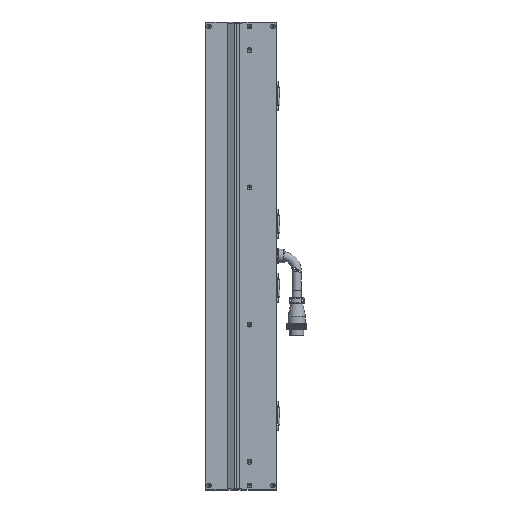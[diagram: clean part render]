
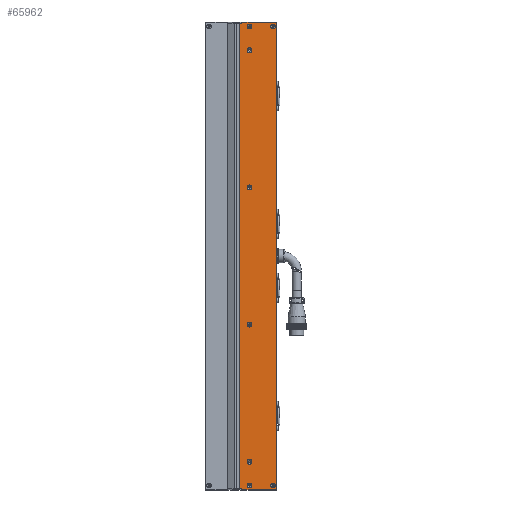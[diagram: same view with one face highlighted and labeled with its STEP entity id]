
A CAD part, left-side view. The second image highlights one B-rep face of the part: STEP entity #65962.
In plain terms, the highlighted planar face has unit normal (-1, 0, 0).
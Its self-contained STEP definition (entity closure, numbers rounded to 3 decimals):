
#83 = CARTESIAN_POINT ( 'NONE',  ( -24.998, -36.5, 304.15 ) ) ;
#1816 = VERTEX_POINT ( 'NONE', #86674 ) ;
#1954 = FACE_BOUND ( 'NONE', #25666, .T. ) ;
#2425 = CARTESIAN_POINT ( 'NONE',  ( -24.998, -72.5, 306.5 ) ) ;
#3952 = CARTESIAN_POINT ( 'NONE',  ( -24.998, -23.25, -305. ) ) ;
#6830 = EDGE_LOOP ( 'NONE', ( #38025 ) ) ;
#7368 = CARTESIAN_POINT ( 'NONE',  ( -24.998, -36.5, -266.85 ) ) ;
#7715 = VERTEX_POINT ( 'NONE', #72041 ) ;
#8238 = CARTESIAN_POINT ( 'NONE',  ( -24.998, -26.5, -298. ) ) ;
#9379 = VECTOR ( 'NONE', #88818, 1000. ) ;
#9977 = VERTEX_POINT ( 'NONE', #76135 ) ;
#10100 = CIRCLE ( 'NONE', #93527, 3.15 ) ;
#10749 = CARTESIAN_POINT ( 'NONE',  ( -24.998, -36.5, -270. ) ) ;
#10985 = CARTESIAN_POINT ( 'NONE',  ( -24.998, -72., -306.5 ) ) ;
#11258 = DIRECTION ( 'NONE',  ( 0., 0., 1. ) ) ;
#11318 = CIRCLE ( 'NONE', #65524, 3.15 ) ;
#11366 = LINE ( 'NONE', #3952, #67562 ) ;
#11568 = EDGE_CURVE ( 'NONE', #41946, #41946, #43046, .T. ) ;
#12170 = CARTESIAN_POINT ( 'NONE',  ( -24.998, -36.5, -90. ) ) ;
#13319 = VECTOR ( 'NONE', #79493, 1000. ) ;
#13717 = LINE ( 'NONE', #43394, #16206 ) ;
#14493 = DIRECTION ( 'NONE',  ( -1., 0., 0. ) ) ;
#16206 = VECTOR ( 'NONE', #42706, 1000. ) ;
#16662 = EDGE_CURVE ( 'NONE', #16963, #16963, #48878, .T. ) ;
#16963 = VERTEX_POINT ( 'NONE', #40646 ) ;
#17788 = EDGE_CURVE ( 'NONE', #92552, #83184, #13717, .T. ) ;
#18574 = ORIENTED_EDGE ( 'NONE', *, *, #73337, .F. ) ;
#19048 = ORIENTED_EDGE ( 'NONE', *, *, #17788, .F. ) ;
#19634 = CIRCLE ( 'NONE', #58338, 3.15 ) ;
#20808 = VERTEX_POINT ( 'NONE', #45881 ) ;
#21697 = LINE ( 'NONE', #62933, #59221 ) ;
#21809 = FACE_BOUND ( 'NONE', #85054, .T. ) ;
#22724 = EDGE_CURVE ( 'NONE', #20808, #97573, #54596, .T. ) ;
#23803 = CIRCLE ( 'NONE', #88369, 3.15 ) ;
#25212 = EDGE_CURVE ( 'NONE', #7715, #83184, #86866, .T. ) ;
#25666 = EDGE_LOOP ( 'NONE', ( #18574 ) ) ;
#26303 = EDGE_LOOP ( 'NONE', ( #97726 ) ) ;
#26374 = CARTESIAN_POINT ( 'NONE',  ( -24.998, -72., 306.5 ) ) ;
#27667 = EDGE_LOOP ( 'NONE', ( #73241 ) ) ;
#30609 = FACE_BOUND ( 'NONE', #87636, .T. ) ;
#30845 = CARTESIAN_POINT ( 'NONE',  ( -24.998, -67.5, -297.85 ) ) ;
#33041 = ORIENTED_EDGE ( 'NONE', *, *, #22724, .T. ) ;
#33846 = DIRECTION ( 'NONE',  ( 0., 0., 1. ) ) ;
#35016 = CARTESIAN_POINT ( 'NONE',  ( -24.998, -36.5, 93.15 ) ) ;
#35211 = DIRECTION ( 'NONE',  ( 0., 0., 1. ) ) ;
#37714 = VECTOR ( 'NONE', #67150, 1000. ) ;
#38025 = ORIENTED_EDGE ( 'NONE', *, *, #11568, .F. ) ;
#38549 = CARTESIAN_POINT ( 'NONE',  ( -24.998, -36.5, 301. ) ) ;
#40243 = AXIS2_PLACEMENT_3D ( 'NONE', #12170, #84151, #35211 ) ;
#40244 = DIRECTION ( 'NONE',  ( 0., -1., 0. ) ) ;
#40646 = CARTESIAN_POINT ( 'NONE',  ( -24.998, -36.5, -86.85 ) ) ;
#41946 = VERTEX_POINT ( 'NONE', #30845 ) ;
#42350 = ORIENTED_EDGE ( 'NONE', *, *, #99567, .F. ) ;
#42423 = CARTESIAN_POINT ( 'NONE',  ( -24.998, -23.25, 305. ) ) ;
#42706 = DIRECTION ( 'NONE',  ( 0., -1., 0. ) ) ;
#43046 = CIRCLE ( 'NONE', #70132, 3.15 ) ;
#43394 = CARTESIAN_POINT ( 'NONE',  ( -24.998, -72.5, 305. ) ) ;
#43626 = ORIENTED_EDGE ( 'NONE', *, *, #82678, .T. ) ;
#44501 = CARTESIAN_POINT ( 'NONE',  ( -24.998, -67.5, 301. ) ) ;
#44986 = EDGE_CURVE ( 'NONE', #9977, #92552, #11366, .T. ) ;
#45268 = DIRECTION ( 'NONE',  ( 0., 0., 1. ) ) ;
#45881 = CARTESIAN_POINT ( 'NONE',  ( -24.998, -26.5, -305. ) ) ;
#46223 = DIRECTION ( 'NONE',  ( 1., 0., 0. ) ) ;
#46450 = CARTESIAN_POINT ( 'NONE',  ( -24.998, -36.5, 273.15 ) ) ;
#47911 = EDGE_CURVE ( 'NONE', #76796, #76796, #19634, .T. ) ;
#48878 = CIRCLE ( 'NONE', #40243, 3.15 ) ;
#49396 = FACE_BOUND ( 'NONE', #26303, .T. ) ;
#50413 = CARTESIAN_POINT ( 'NONE',  ( -24.998, -72.5, -306.5 ) ) ;
#50894 = DIRECTION ( 'NONE',  ( 0., 0., 1. ) ) ;
#51523 = ORIENTED_EDGE ( 'NONE', *, *, #25212, .T. ) ;
#51885 = DIRECTION ( 'NONE',  ( -1., 0., 0. ) ) ;
#51897 = FACE_BOUND ( 'NONE', #94958, .T. ) ;
#52988 = DIRECTION ( 'NONE',  ( -1., 0., 0. ) ) ;
#53556 = ORIENTED_EDGE ( 'NONE', *, *, #16662, .F. ) ;
#54525 = CARTESIAN_POINT ( 'NONE',  ( -24.998, -36.5, -297.85 ) ) ;
#54596 = LINE ( 'NONE', #8238, #13319 ) ;
#55471 = VERTEX_POINT ( 'NONE', #46450 ) ;
#55747 = EDGE_CURVE ( 'NONE', #97573, #63568, #101520, .T. ) ;
#56641 = CARTESIAN_POINT ( 'NONE',  ( -24.998, -26.5, 298. ) ) ;
#58133 = CIRCLE ( 'NONE', #95392, 3.15 ) ;
#58338 = AXIS2_PLACEMENT_3D ( 'NONE', #60686, #52988, #45268 ) ;
#58728 = VECTOR ( 'NONE', #98805, 1000. ) ;
#59221 = VECTOR ( 'NONE', #78971, 1000. ) ;
#59432 = DIRECTION ( 'NONE',  ( -1., 0., 0. ) ) ;
#60493 = DIRECTION ( 'NONE',  ( 0., 0., 1. ) ) ;
#60686 = CARTESIAN_POINT ( 'NONE',  ( -24.998, -36.5, 90. ) ) ;
#60785 = DIRECTION ( 'NONE',  ( 0., 0., 1. ) ) ;
#61895 = EDGE_LOOP ( 'NONE', ( #43626, #33041, #96429, #95923, #94044, #51523, #19048, #66483 ) ) ;
#62457 = ORIENTED_EDGE ( 'NONE', *, *, #95091, .F. ) ;
#62673 = DIRECTION ( 'NONE',  ( 0., 0., -1. ) ) ;
#62933 = CARTESIAN_POINT ( 'NONE',  ( -24.998, -72., 305. ) ) ;
#63326 = CARTESIAN_POINT ( 'NONE',  ( -24.998, -26.5, 305. ) ) ;
#63568 = VERTEX_POINT ( 'NONE', #10985 ) ;
#65293 = DIRECTION ( 'NONE',  ( -1., 0., 0. ) ) ;
#65401 = VERTEX_POINT ( 'NONE', #83 ) ;
#65524 = AXIS2_PLACEMENT_3D ( 'NONE', #98584, #59432, #11258 ) ;
#65962 = ADVANCED_FACE ( 'NONE', ( #1954, #21809, #94400, #51897, #30609, #91917, #70653, #49396, #89431 ), #70029, .F. ) ;
#66483 = ORIENTED_EDGE ( 'NONE', *, *, #44986, .F. ) ;
#66776 = EDGE_CURVE ( 'NONE', #63568, #76314, #21697, .T. ) ;
#67150 = DIRECTION ( 'NONE',  ( 0., -1., 0. ) ) ;
#67562 = VECTOR ( 'NONE', #60493, 1000. ) ;
#67929 = DIRECTION ( 'NONE',  ( 0., 0., 1. ) ) ;
#68839 = EDGE_LOOP ( 'NONE', ( #42350 ) ) ;
#70029 = PLANE ( 'NONE',  #99958 ) ;
#70132 = AXIS2_PLACEMENT_3D ( 'NONE', #93257, #84232, #60785 ) ;
#70653 = FACE_BOUND ( 'NONE', #6830, .T. ) ;
#71839 = EDGE_CURVE ( 'NONE', #91783, #91783, #72649, .T. ) ;
#72041 = CARTESIAN_POINT ( 'NONE',  ( -24.998, -26.5, 306.5 ) ) ;
#72649 = CIRCLE ( 'NONE', #84992, 3.15 ) ;
#72917 = EDGE_CURVE ( 'NONE', #55471, #55471, #11318, .T. ) ;
#73241 = ORIENTED_EDGE ( 'NONE', *, *, #72917, .F. ) ;
#73337 = EDGE_CURVE ( 'NONE', #1816, #1816, #23803, .T. ) ;
#74931 = LINE ( 'NONE', #2425, #58728 ) ;
#76135 = CARTESIAN_POINT ( 'NONE',  ( -24.998, -23.25, -305. ) ) ;
#76314 = VERTEX_POINT ( 'NONE', #26374 ) ;
#76796 = VERTEX_POINT ( 'NONE', #35016 ) ;
#78971 = DIRECTION ( 'NONE',  ( 0., 0., 1. ) ) ;
#79493 = DIRECTION ( 'NONE',  ( 0., 0., -1. ) ) ;
#80547 = VECTOR ( 'NONE', #40244, 1000. ) ;
#82678 = EDGE_CURVE ( 'NONE', #9977, #20808, #101812, .T. ) ;
#83184 = VERTEX_POINT ( 'NONE', #63326 ) ;
#84151 = DIRECTION ( 'NONE',  ( -1., 0., 0. ) ) ;
#84232 = DIRECTION ( 'NONE',  ( -1., 0., 0. ) ) ;
#84992 = AXIS2_PLACEMENT_3D ( 'NONE', #89096, #65293, #33846 ) ;
#85054 = EDGE_LOOP ( 'NONE', ( #62457 ) ) ;
#86079 = VERTEX_POINT ( 'NONE', #7368 ) ;
#86674 = CARTESIAN_POINT ( 'NONE',  ( -24.998, -67.5, 304.15 ) ) ;
#86866 = LINE ( 'NONE', #56641, #9379 ) ;
#87514 = DIRECTION ( 'NONE',  ( 0., 0., 1. ) ) ;
#87636 = EDGE_LOOP ( 'NONE', ( #93488 ) ) ;
#88369 = AXIS2_PLACEMENT_3D ( 'NONE', #44501, #51885, #67929 ) ;
#88662 = EDGE_CURVE ( 'NONE', #76314, #7715, #74931, .T. ) ;
#88818 = DIRECTION ( 'NONE',  ( 0., 0., -1. ) ) ;
#89096 = CARTESIAN_POINT ( 'NONE',  ( -24.998, -36.5, -301. ) ) ;
#89431 = FACE_OUTER_BOUND ( 'NONE', #61895, .T. ) ;
#91783 = VERTEX_POINT ( 'NONE', #54525 ) ;
#91917 = FACE_BOUND ( 'NONE', #27667, .T. ) ;
#92552 = VERTEX_POINT ( 'NONE', #42423 ) ;
#93257 = CARTESIAN_POINT ( 'NONE',  ( -24.998, -67.5, -301. ) ) ;
#93488 = ORIENTED_EDGE ( 'NONE', *, *, #47911, .F. ) ;
#93527 = AXIS2_PLACEMENT_3D ( 'NONE', #10749, #98786, #50894 ) ;
#94044 = ORIENTED_EDGE ( 'NONE', *, *, #88662, .T. ) ;
#94400 = FACE_BOUND ( 'NONE', #68839, .T. ) ;
#94958 = EDGE_LOOP ( 'NONE', ( #53556 ) ) ;
#95091 = EDGE_CURVE ( 'NONE', #65401, #65401, #58133, .T. ) ;
#95392 = AXIS2_PLACEMENT_3D ( 'NONE', #38549, #14493, #87514 ) ;
#95597 = CARTESIAN_POINT ( 'NONE',  ( -24.998, -26.5, -306.5 ) ) ;
#95923 = ORIENTED_EDGE ( 'NONE', *, *, #66776, .T. ) ;
#96164 = CARTESIAN_POINT ( 'NONE',  ( -24.998, -72.5, -305. ) ) ;
#96429 = ORIENTED_EDGE ( 'NONE', *, *, #55747, .T. ) ;
#97573 = VERTEX_POINT ( 'NONE', #95597 ) ;
#97726 = ORIENTED_EDGE ( 'NONE', *, *, #71839, .F. ) ;
#98584 = CARTESIAN_POINT ( 'NONE',  ( -24.998, -36.5, 270. ) ) ;
#98786 = DIRECTION ( 'NONE',  ( -1., 0., 0. ) ) ;
#98805 = DIRECTION ( 'NONE',  ( 0., 1., 0. ) ) ;
#99567 = EDGE_CURVE ( 'NONE', #86079, #86079, #10100, .T. ) ;
#99958 = AXIS2_PLACEMENT_3D ( 'NONE', #103193, #46223, #62673 ) ;
#101520 = LINE ( 'NONE', #50413, #37714 ) ;
#101812 = LINE ( 'NONE', #96164, #80547 ) ;
#103193 = CARTESIAN_POINT ( 'NONE',  ( -24.998, -72.5, 305. ) ) ;
